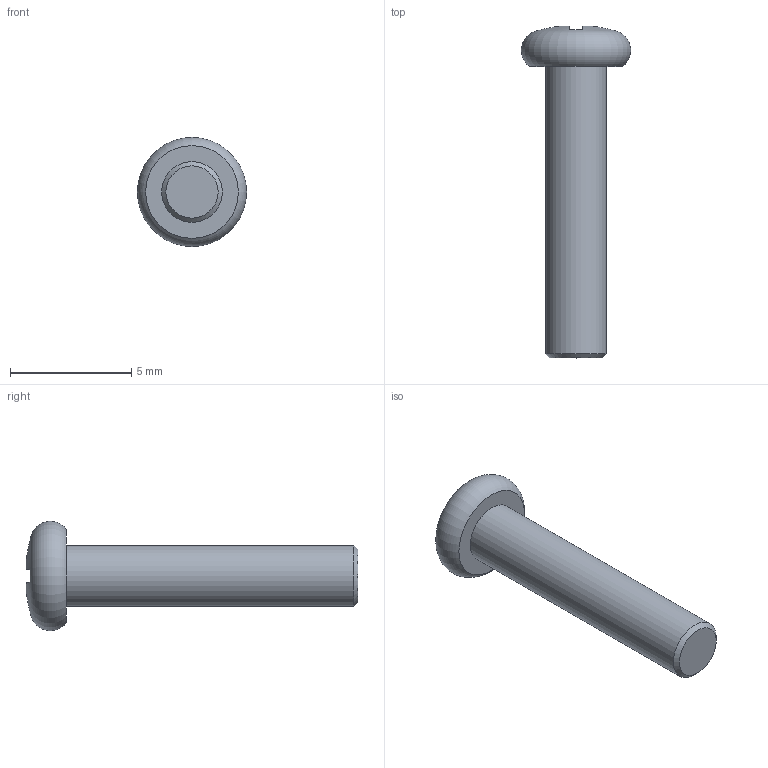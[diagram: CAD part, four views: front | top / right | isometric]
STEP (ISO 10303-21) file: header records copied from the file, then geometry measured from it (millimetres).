
FILE_DESCRIPTION(/* description */ ('STEP AP242','CAx-IF Rec.Pracs.---Representation and Presentation of Product Manufacturing Information (PMI)---4.0---2014-10-13','CAx-IF Rec.Pracs.---3D Tessellated Geometry---0.4---2014-09-14','2;1'),/* implementation_level */ '2;1');
FILE_NAME(/* name */ 'TurtleBot3 Burger - PHS_M2_5X12 (3)',/* time_stamp */ '2025-02-06T06:27:35Z',/* author */ (''),/* organization */ (''),/* preprocessor_version */ 'ST-DEVELOPER v20',/* originating_system */ 'ONSHAPE BY PTC INC, 1.193',/* authorisation */ ' ');
FILE_SCHEMA (('AP242_MANAGED_MODEL_BASED_3D_ENGINEERING_MIM_LF { 1 0 10303 442 1 1 4 }'));
Length unit declared in the file: metre
Products named in the file (1): PHS_M2_5X12
Bounding box: 4.5 x 13.67 x 4.5 mm (x, y, z)
Volume: 78 mm3; surface area: 145.5 mm2
Topology: 1 solids, 1 shells, 23 faces, 59 edges, 39 vertices
Faces by surface type: plane 11, cylinder 9, cone 1, torus 1, sphere 1
Full cylindrical faces by diameter (mm): 2.5 x1
Entity records: 932 total; most frequent: CARTESIAN_POINT 198, DIRECTION 122, ORIENTED_EDGE 106, EDGE_CURVE 53, AXIS2_PLACEMENT_3D 49, VERTEX_POINT 37, EDGE_LOOP 28, FACE_BOUND 28
